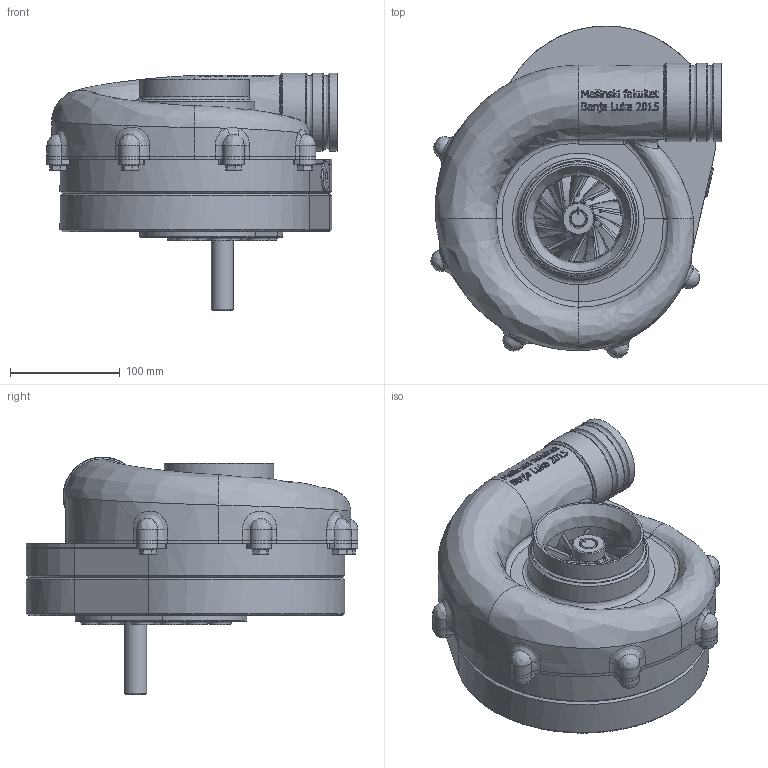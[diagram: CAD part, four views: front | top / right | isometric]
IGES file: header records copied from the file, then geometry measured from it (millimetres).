
Global section: file name: Sklop turbokompresora; native system: Autodesk Inventor 2016; preprocessor: unknown; author: Ugljesa; date: 20150825.092523; units: millimetre
Bounding box: 264.33 x 302.51 x 216.77 mm (x, y, z)
Volume: 3169067.8 mm3; surface area: 853981.6 mm2
Topology: 39 solids, 39 shells, 2429 faces, 6507 edges, 4143 vertices
Faces by surface type: bspline 2429
